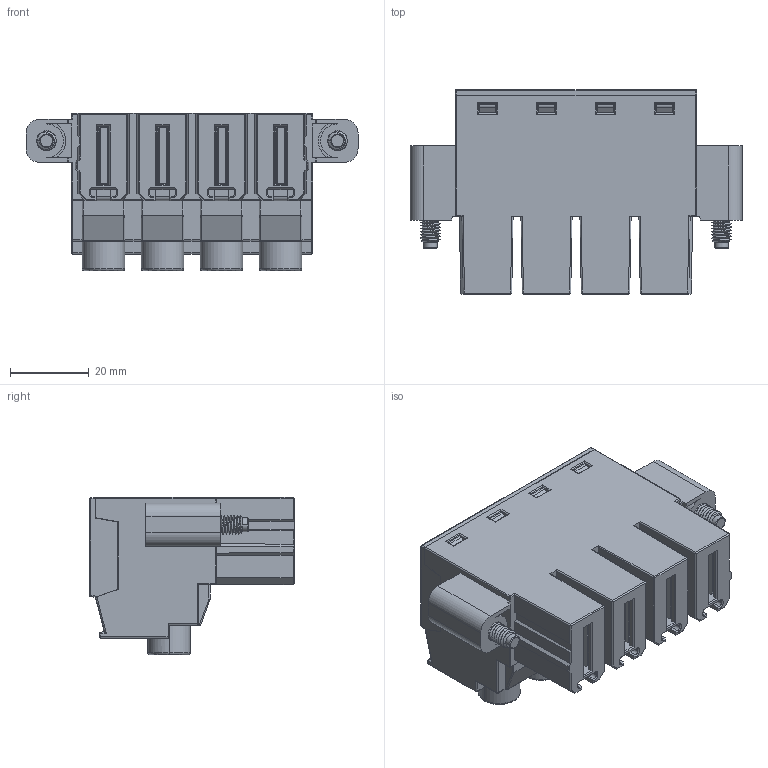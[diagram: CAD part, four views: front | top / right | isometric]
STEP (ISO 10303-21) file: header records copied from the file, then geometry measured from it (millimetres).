
FILE_DESCRIPTION((''),'2;1');
FILE_NAME('4PIN_ASM','2020-06-29T',('chenbo'),(''),'CREO PARAMETRIC BY PTC INC, 2016260','CREO PARAMETRIC BY PTC INC, 2016260','');
FILE_SCHEMA(('CONFIG_CONTROL_DESIGN'));
Products named in the file (1): 4PIN_ASM
Bounding box: 84.4 x 52 x 40 mm (x, y, z)
Volume: 43491.4 mm3; surface area: 72200.9 mm2
Topology: 3 solids, 15 shells, 4242 faces, 13058 edges, 8416 vertices
Faces by surface type: plane 2675, cylinder 1195, torus 108, cone 106, bspline 96, sphere 62
Entity records: 163102 total; most frequent: CARTESIAN_POINT 49150, ORIENTED_EDGE 25980, DIRECTION 21174, EDGE_CURVE 12990, VECTOR 9102, LINE 9102, VERTEX_POINT 8416, AXIS2_PLACEMENT_3D 6036
